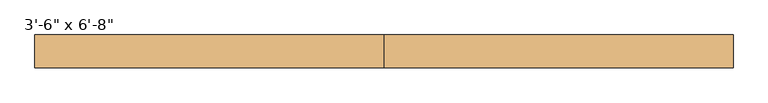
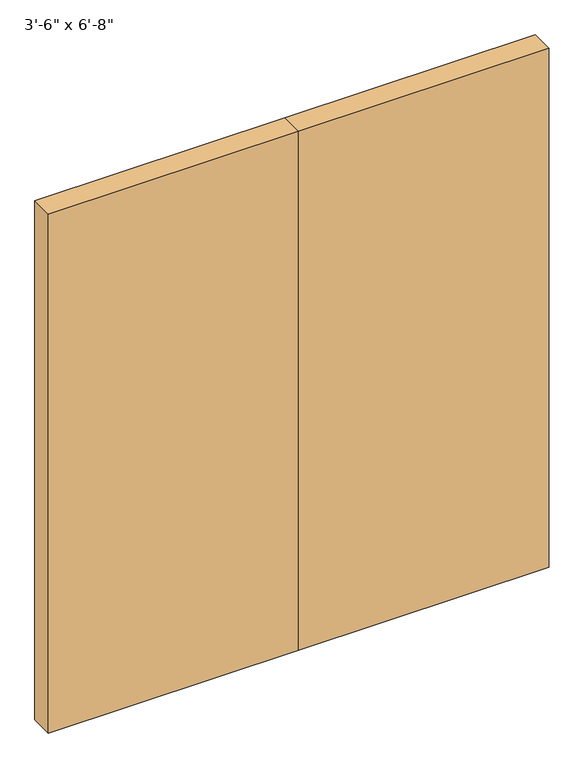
"""IFC4 building model written with IfcOpenShell, lengths in millimetres: door geometry."""

from ifc_helpers import new_model, si_unit, origin, origin_with_axes, place, context, project, spatial, polyline, outline, extrude, source, transform, mapped, element, save


def door_7fdb5e2d(model_context):
    return source(origin(), model_context, "Body", "SweptSolid", [
        extrude(outline(polyline([(0.0, 57.15), (533.4, 57.15), (533.4, 7.15), (0.0, 7.15), (0.0, 57.15)])), origin_with_axes(), (0.0, 0.0, 1.0), 1168.4),
        extrude(outline(polyline([(-533.4, 57.15), (0.0, 57.15), (0.0, 7.15), (-533.4, 7.15), (-533.4, 57.15)])), origin_with_axes(), (0.0, 0.0, 1.0), 1168.4),
    ])


if __name__ == "__main__":
    model = new_model("IFC4")
    model_context = context("Model", 3, world=origin())
    ifc_project = project(units=[si_unit("LENGTHUNIT", "METRE", prefix="MILLI")], contexts=[model_context])
    site = spatial("IfcSite", under=ifc_project)
    building = spatial("IfcBuilding", under=site)
    placement = place(None, origin())
    door_shape = door_7fdb5e2d(model_context)
    element("IfcDoor", 1, ObjectType="Planitar - Double Door_Flush Panel : 3'-6\" x 6'-8\"", at=placement, inside=building, context=model_context, shape_type="MappedRepresentation", body=[
        mapped(door_shape, transform((0.0, 0.0, 0.0), x_axis=(1.0, 0.0, 0.0), y_axis=(0.0, 1.0, 0.0), z_axis=(0.0, 0.0, 1.0))),
    ])
    save(model, "model.ifc")
